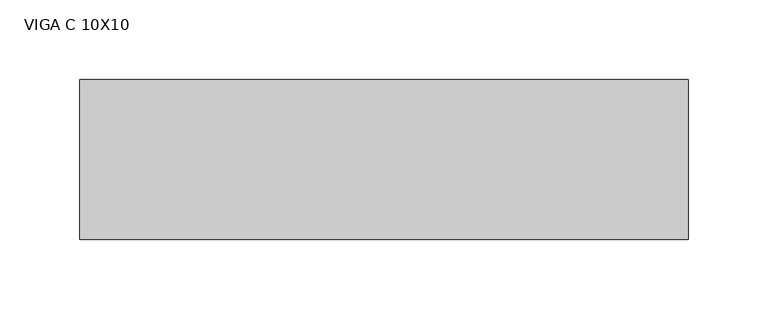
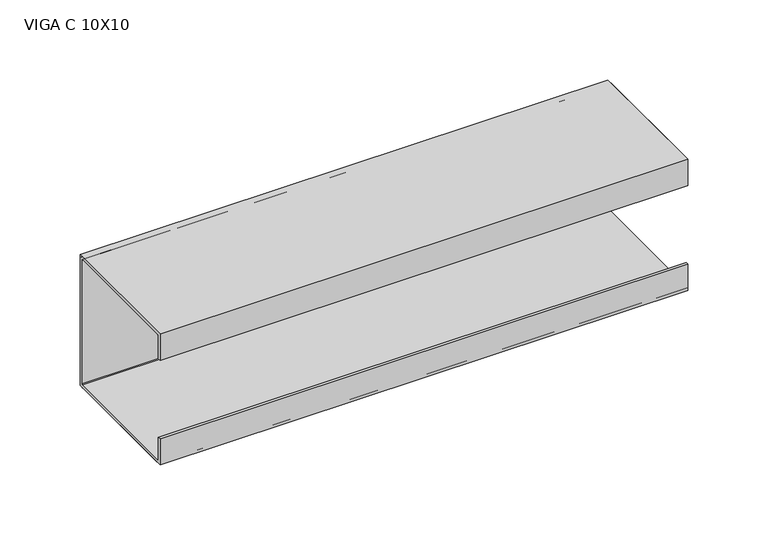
"""IFC4 building model written with IfcOpenShell, lengths in millimetres: beam geometry, VIGA PERFIL C AÇO : VIGA C 10X10."""

from ifc_helpers import new_model, si_unit, point, frame, frame_2d, origin, place, context, project, spatial, polyline, circle_curve, trimmed, segment, composite_curve, outline, extrude, source, transform, mapped, element, save


def viga_c_10x10_7d580f23(model_context):
    return source(origin(), model_context, "Body", "SweptSolid", [
        extrude(outline(polyline([(9.2, -50.0), (-90.8, -50.0), (-90.8, -30.0), (-88.9, -30.0), (-88.9, -48.1), (7.3, -48.1), (7.3, 48.1), (-88.9, 48.1), (-88.9, 30.0), (-90.8, 30.0), (-90.8, 50.0), (9.2, 50.0), (9.2, -50.0)])), frame((-198.0, 0.0, 0.0), z_axis=(1.0, 0.0, 0.0), x_axis=(0.0, 1.0, 0.0)), (0.0, 0.0, 1.0), 381.0),
        extrude(outline(composite_curve([segment(trimmed(circle_curve(frame_2d((5.4, -46.2)), 3.8), [point((9.2, -46.2))], [point((5.4, -50.0))], False, "CARTESIAN"), True, "CONTINUOUS"), segment(polyline([(5.4, -50.0), (-87.0, -50.0)]), True, "CONTINUOUS"), segment(trimmed(circle_curve(frame_2d((-87.0, -46.2)), 3.8), [point((-87.0, -50.0))], [point((-90.8, -46.2))], False, "CARTESIAN"), True, "CONTINUOUS"), segment(polyline([(-90.8, -46.2), (-90.8, -30.0), (-88.9, -30.0), (-88.9, -46.2)]), True, "CONTINUOUS"), segment(trimmed(circle_curve(frame_2d((-87.0, -46.2)), 1.9), [point((-88.9, -46.2))], [point((-87.0, -48.1))], True, "CARTESIAN"), True, "CONTINUOUS"), segment(polyline([(-87.0, -48.1), (5.4, -48.1)]), True, "CONTINUOUS"), segment(trimmed(circle_curve(frame_2d((5.4, -46.2)), 1.9), [point((5.4, -48.1))], [point((7.3, -46.2))], True, "CARTESIAN"), True, "CONTINUOUS"), segment(polyline([(7.3, -46.2), (7.3, 46.2)]), True, "CONTINUOUS"), segment(trimmed(circle_curve(frame_2d((5.4, 46.2)), 1.9), [point((7.3, 46.2))], [point((5.4, 48.1))], True, "CARTESIAN"), True, "CONTINUOUS"), segment(polyline([(5.4, 48.1), (-87.0, 48.1)]), True, "CONTINUOUS"), segment(trimmed(circle_curve(frame_2d((-87.0, 46.2)), 1.9), [point((-87.0, 48.1))], [point((-88.9, 46.2))], True, "CARTESIAN"), True, "CONTINUOUS"), segment(polyline([(-88.9, 46.2), (-88.9, 30.0), (-90.8, 30.0), (-90.8, 46.2)]), True, "CONTINUOUS"), segment(trimmed(circle_curve(frame_2d((-87.0, 46.2)), 3.8), [point((-90.8, 46.2))], [point((-87.0, 50.0))], False, "CARTESIAN"), True, "CONTINUOUS"), segment(polyline([(-87.0, 50.0), (5.4, 50.0)]), True, "CONTINUOUS"), segment(trimmed(circle_curve(frame_2d((5.4, 46.2)), 3.8), [point((5.4, 50.0))], [point((9.2, 46.2))], False, "CARTESIAN"), True, "CONTINUOUS"), segment(polyline([(9.2, 46.2), (9.2, -46.2)]), True, "CONTINUOUS")], self_intersect=False)), frame((-198.0, 0.0, 0.0), z_axis=(1.0, 0.0, 0.0), x_axis=(0.0, 1.0, 0.0)), (0.0, 0.0, 1.0), 381.0),
    ])


if __name__ == "__main__":
    model = new_model("IFC4")
    model_context = context("Model", 3, world=origin())
    ifc_project = project(units=[si_unit("LENGTHUNIT", "METRE", prefix="MILLI")], contexts=[model_context])
    site = spatial("IfcSite", under=ifc_project)
    building = spatial("IfcBuilding", under=site)
    placement = place(None, origin())
    viga_c_10x10_shape = viga_c_10x10_7d580f23(model_context)
    element("IfcBeam", 1, ObjectType="VIGA PERFIL C AÇO : VIGA C 10X10", at=placement, inside=building, context=model_context, shape_type="MappedRepresentation", body=[
        mapped(viga_c_10x10_shape, transform((0.0, 0.0, 0.0), x_axis=(1.0, 0.0, 0.0), y_axis=(0.0, 1.0, 0.0), z_axis=(0.0, 0.0, 1.0))),
    ])
    save(model, "model.ifc")
